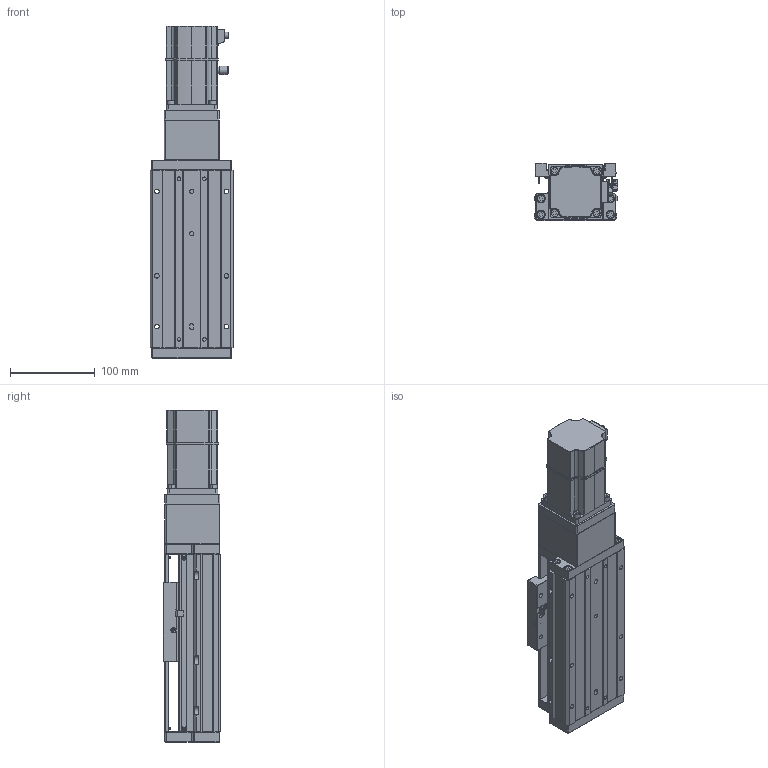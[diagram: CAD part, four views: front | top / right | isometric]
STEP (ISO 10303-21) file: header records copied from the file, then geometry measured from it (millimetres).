
FILE_DESCRIPTION (( 'STEP AP203' ), '1' );
FILE_NAME ('KTHA100-50-BC-M20-C4L.step', '2022-04-26T01:44:34', ( '微软用户' ), ( '微软中国' ), 'SwSTEP 2.0', 'SolidWorks 2020', '' );
FILE_SCHEMA (( 'CONFIG_CONTROL_DESIGN' ));
Length unit declared in the file: millimetre
Products named in the file (18): CTHA86-013; KTHA100-002; GBT77-2000 M3×3; CTHA86-027; KTHA100-004; GBT 70.1-M3℅6; CTHA86-006-1_CTHA86-006-2; KTHA100-005; GBT70.1 M5℅16; KTHA100-50-BC-M20-C4L; GB¨uT 70.2-M3¡Á5_M3¡Á6; CTHA60-016; EE_SX911P_R; GBT 70.3-M3℅6; CTHA60-017; _X2_4E0983F1_X0_200W_1; KTHA100-001_210; CTHA60-021
Assembly tree (56 placements, depth 2):
  KTHA100-50-BC-M20-C4L
    KTHA100-001_210
    KTHA100-002
    KTHA100-004
    KTHA100-005
    GB¨uT 70.2-M3¡Á5_M3¡Á6  x6
    EE_SX911P_R  x3
    CTHA60-017  x3
    CTHA60-021  x2
    GBT77-2000 M3×3  x6
    GBT 70.1-M3℅6  x6
    GBT70.1 M5℅16  x14
    CTHA60-016  x2
    GBT 70.3-M3℅6  x6
    _X2_4E0983F1_X0_200W_1
    CTHA86-013
    CTHA86-027
    CTHA86-006-1_CTHA86-006-2
Bounding box: 98.82 x 68 x 392.5 mm (x, y, z)
Volume: 1566037.9 mm3; surface area: 283210.8 mm2
Topology: 59 solids, 59 shells, 2307 faces, 5464 edges, 3364 vertices
Faces by surface type: plane 1167, cylinder 631, cone 320, torus 104, bspline 69, sphere 16
Entity records: 38368 total; most frequent: CARTESIAN_POINT 7415, DIRECTION 5999, ORIENTED_EDGE 5696, EDGE_CURVE 2848, AXIS2_PLACEMENT_3D 2120, VERTEX_POINT 1782, VECTOR 1759, LINE 1759
